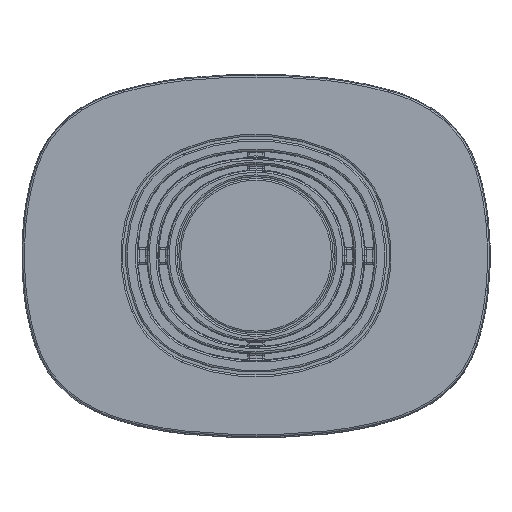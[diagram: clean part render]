
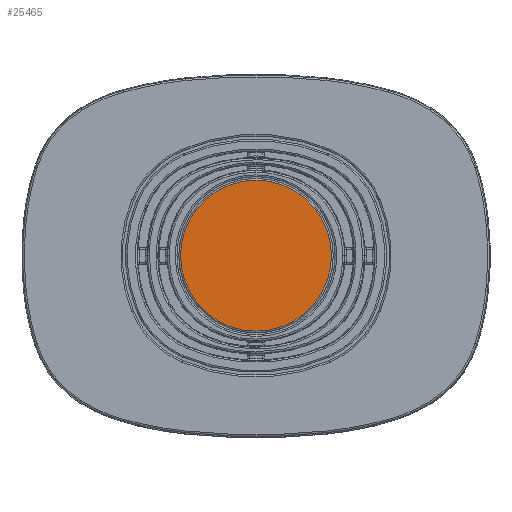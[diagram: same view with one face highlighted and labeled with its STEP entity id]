
A CAD part, top view. The second image highlights one B-rep face of the part: STEP entity #25465.
In plain terms, the highlighted planar face has unit normal (0, 0, 1).
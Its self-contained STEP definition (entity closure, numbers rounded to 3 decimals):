
#2322=CIRCLE('',#27656,86.2);
#6235=ORIENTED_EDGE('',*,*,#13136,.T.);
#13136=EDGE_CURVE('',#16709,#16709,#2322,.T.);
#16709=VERTEX_POINT('',#42502);
#21706=EDGE_LOOP('',(#6235));
#23385=FACE_BOUND('',#21706,.T.);
#24727=PLANE('',#27655);
#25465=ADVANCED_FACE('',(#23385),#24727,.T.);
#27655=AXIS2_PLACEMENT_3D('',#42500,#31805,#31806);
#27656=AXIS2_PLACEMENT_3D('',#42501,#31807,#31808);
#31805=DIRECTION('',(0.,0.,1.));
#31806=DIRECTION('',(1.,0.,0.));
#31807=DIRECTION('',(0.,0.,1.));
#31808=DIRECTION('',(1.,0.,0.));
#42500=CARTESIAN_POINT('',(-14.985,123.28,859.51));
#42501=CARTESIAN_POINT('',(0.,135.025,859.51));
#42502=CARTESIAN_POINT('',(86.2,135.025,859.51));
